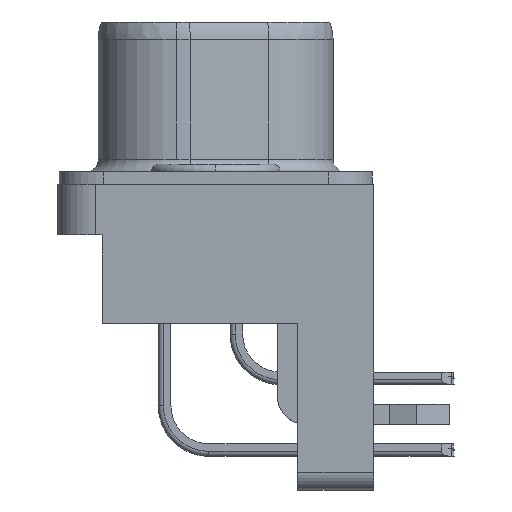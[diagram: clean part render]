
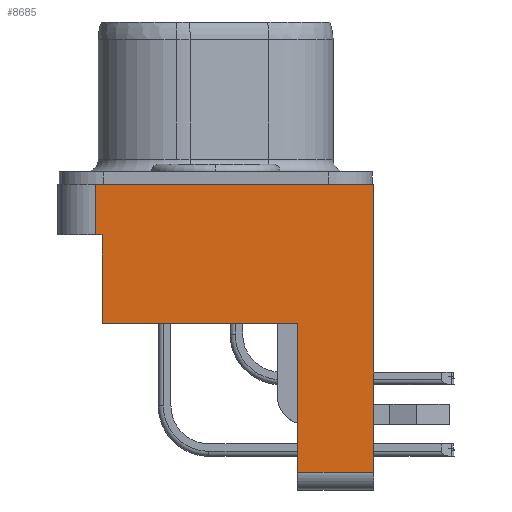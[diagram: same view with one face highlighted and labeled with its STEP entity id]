
A CAD part, left-side view. The second image highlights one B-rep face of the part: STEP entity #8685.
In plain terms, the highlighted planar face has unit normal (-1, 0, 0).
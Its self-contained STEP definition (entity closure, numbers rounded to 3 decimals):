
#190 = DIRECTION ( 'NONE',  ( 0., 0., -1. ) ) ;
#270 = VERTEX_POINT ( 'NONE', #1399 ) ;
#854 = LINE ( 'NONE', #14137, #18830 ) ;
#1172 = DIRECTION ( 'NONE',  ( 0., -1., 0. ) ) ;
#1399 = CARTESIAN_POINT ( 'NONE',  ( -15.4, 4.5, -2. ) ) ;
#1558 = DIRECTION ( 'NONE',  ( 0., 0., 1. ) ) ;
#1714 = CARTESIAN_POINT ( 'NONE',  ( -15.4, -3.25, -5.5 ) ) ;
#1765 = VERTEX_POINT ( 'NONE', #19807 ) ;
#1787 = CARTESIAN_POINT ( 'NONE',  ( -15.4, -6.25, -5.5 ) ) ;
#1852 = DIRECTION ( 'NONE',  ( 0., -1., 0. ) ) ;
#1997 = ORIENTED_EDGE ( 'NONE', *, *, #16065, .T. ) ;
#2199 = LINE ( 'NONE', #16069, #8194 ) ;
#3030 = AXIS2_PLACEMENT_3D ( 'NONE', #10517, #15808, #17680 ) ;
#3406 = CARTESIAN_POINT ( 'NONE',  ( -15.4, -3.25, -5.5 ) ) ;
#4997 = EDGE_CURVE ( 'NONE', #10296, #18214, #9175, .T. ) ;
#5032 = CARTESIAN_POINT ( 'NONE',  ( -15.4, -6.25, 0. ) ) ;
#5604 = EDGE_LOOP ( 'NONE', ( #1997, #14038, #9999, #7516, #10576, #6812, #18665, #21411 ) ) ;
#5970 = VERTEX_POINT ( 'NONE', #5032 ) ;
#6207 = CARTESIAN_POINT ( 'NONE',  ( -15.4, 6.25, 0. ) ) ;
#6812 = ORIENTED_EDGE ( 'NONE', *, *, #11403, .T. ) ;
#7468 = DIRECTION ( 'NONE',  ( 0., 0., 1. ) ) ;
#7516 = ORIENTED_EDGE ( 'NONE', *, *, #11842, .T. ) ;
#7793 = CARTESIAN_POINT ( 'NONE',  ( -15.4, 4.75, -2. ) ) ;
#8194 = VECTOR ( 'NONE', #190, 1000. ) ;
#8365 = EDGE_CURVE ( 'NONE', #1765, #5970, #19244, .T. ) ;
#8685 = ADVANCED_FACE ( 'NONE', ( #14613 ), #10671, .T. ) ;
#8708 = EDGE_CURVE ( 'NONE', #13743, #270, #11848, .T. ) ;
#8998 = LINE ( 'NONE', #3406, #12265 ) ;
#9175 = LINE ( 'NONE', #10303, #13792 ) ;
#9395 = VECTOR ( 'NONE', #1852, 1000. ) ;
#9579 = VECTOR ( 'NONE', #7468, 1000. ) ;
#9999 = ORIENTED_EDGE ( 'NONE', *, *, #4997, .T. ) ;
#10237 = DIRECTION ( 'NONE',  ( 0., 0., 1. ) ) ;
#10296 = VERTEX_POINT ( 'NONE', #16031 ) ;
#10303 = CARTESIAN_POINT ( 'NONE',  ( -15.4, -6.25, -11.4 ) ) ;
#10517 = CARTESIAN_POINT ( 'NONE',  ( -15.4, 6.25, -5.5 ) ) ;
#10576 = ORIENTED_EDGE ( 'NONE', *, *, #8365, .F. ) ;
#10671 = PLANE ( 'NONE',  #3030 ) ;
#10723 = CARTESIAN_POINT ( 'NONE',  ( -15.4, 4.5, -5.5 ) ) ;
#10973 = VERTEX_POINT ( 'NONE', #10723 ) ;
#11403 = EDGE_CURVE ( 'NONE', #1765, #13743, #2199, .T. ) ;
#11674 = CARTESIAN_POINT ( 'NONE',  ( -15.4, -6.25, -11.4 ) ) ;
#11842 = EDGE_CURVE ( 'NONE', #18214, #5970, #14481, .T. ) ;
#11848 = LINE ( 'NONE', #19294, #9395 ) ;
#12265 = VECTOR ( 'NONE', #10237, 1000. ) ;
#13743 = VERTEX_POINT ( 'NONE', #7793 ) ;
#13792 = VECTOR ( 'NONE', #13825, 1000. ) ;
#13825 = DIRECTION ( 'NONE',  ( 0., -1., 0. ) ) ;
#14038 = ORIENTED_EDGE ( 'NONE', *, *, #16168, .F. ) ;
#14137 = CARTESIAN_POINT ( 'NONE',  ( -15.4, 6.25, -5.5 ) ) ;
#14481 = LINE ( 'NONE', #1787, #15021 ) ;
#14613 = FACE_OUTER_BOUND ( 'NONE', #5604, .T. ) ;
#15021 = VECTOR ( 'NONE', #1558, 1000. ) ;
#15043 = VERTEX_POINT ( 'NONE', #1714 ) ;
#15701 = EDGE_CURVE ( 'NONE', #10973, #270, #19410, .T. ) ;
#15808 = DIRECTION ( 'NONE',  ( -1., 0., 0. ) ) ;
#15888 = DIRECTION ( 'NONE',  ( 0., -1., 0. ) ) ;
#16031 = CARTESIAN_POINT ( 'NONE',  ( -15.4, -3.25, -11.4 ) ) ;
#16065 = EDGE_CURVE ( 'NONE', #10973, #15043, #854, .T. ) ;
#16069 = CARTESIAN_POINT ( 'NONE',  ( -15.4, 4.75, -5.5 ) ) ;
#16168 = EDGE_CURVE ( 'NONE', #10296, #15043, #8998, .T. ) ;
#16534 = VECTOR ( 'NONE', #1172, 1000. ) ;
#17680 = DIRECTION ( 'NONE',  ( 0., 0., 1. ) ) ;
#18214 = VERTEX_POINT ( 'NONE', #11674 ) ;
#18665 = ORIENTED_EDGE ( 'NONE', *, *, #8708, .T. ) ;
#18830 = VECTOR ( 'NONE', #15888, 1000. ) ;
#19244 = LINE ( 'NONE', #6207, #16534 ) ;
#19294 = CARTESIAN_POINT ( 'NONE',  ( -15.4, 7.5, -2. ) ) ;
#19410 = LINE ( 'NONE', #19837, #9579 ) ;
#19807 = CARTESIAN_POINT ( 'NONE',  ( -15.4, 4.75, 0. ) ) ;
#19837 = CARTESIAN_POINT ( 'NONE',  ( -15.4, 4.5, -5.5 ) ) ;
#21411 = ORIENTED_EDGE ( 'NONE', *, *, #15701, .F. ) ;
